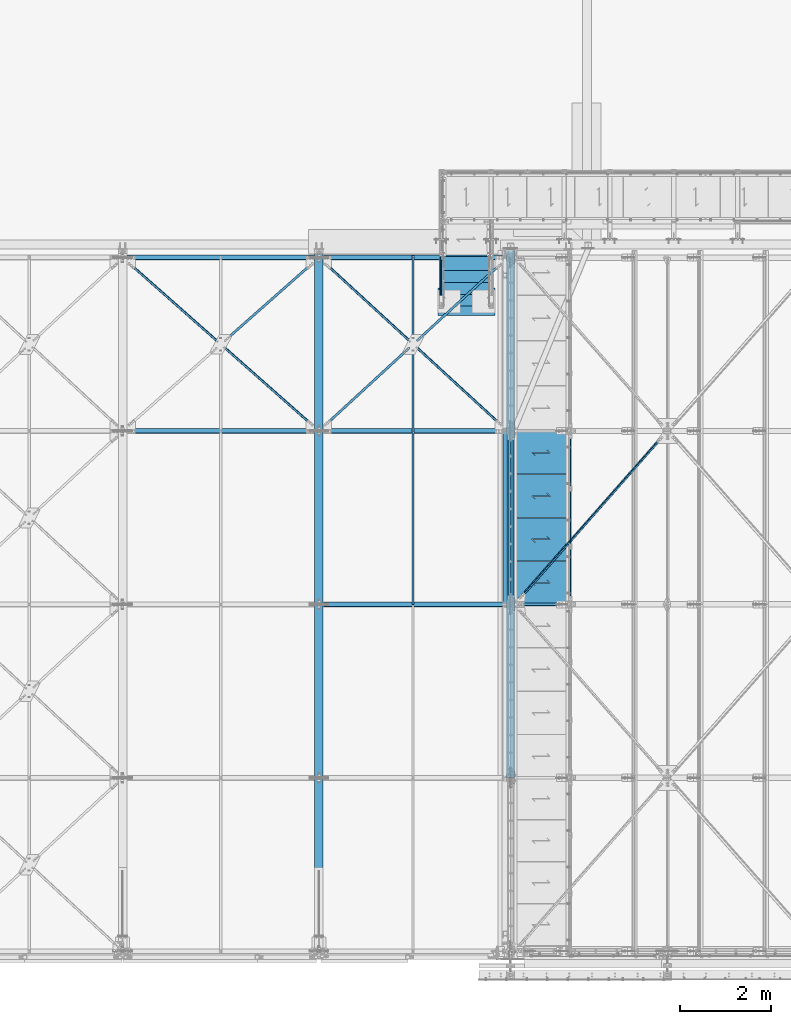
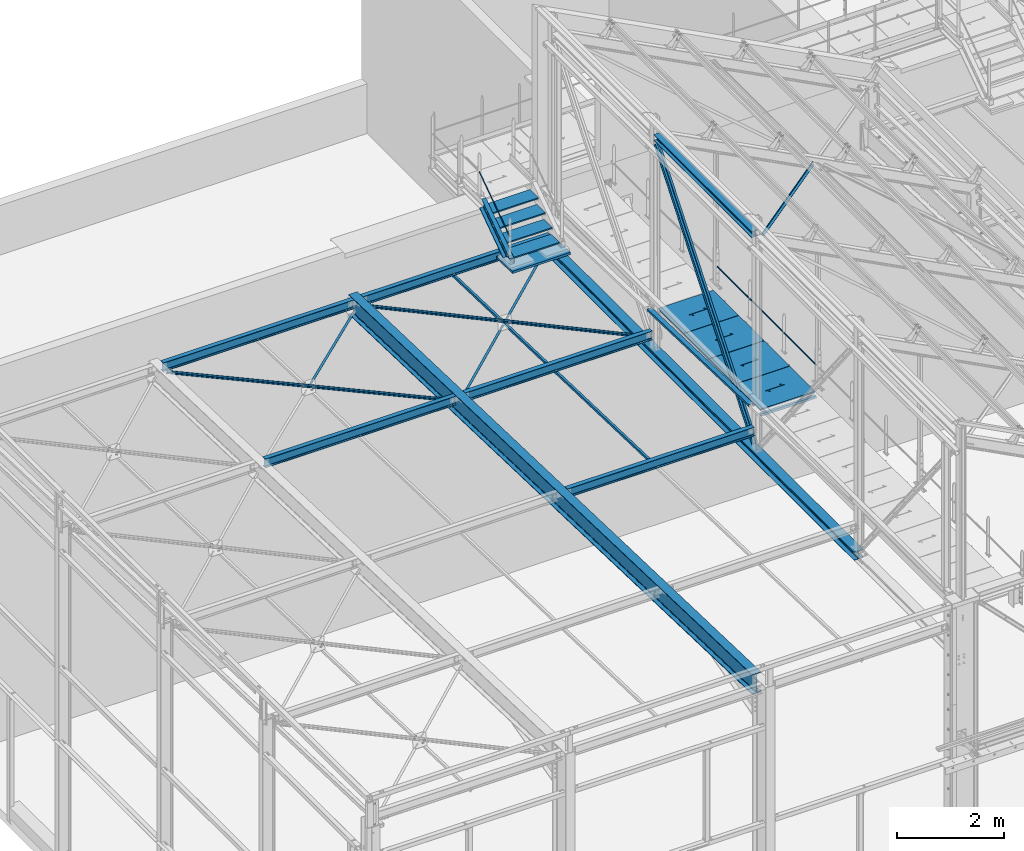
# One storey, part 45 of 362: 27 beams, 4 members, 31 elements without a shape of their own.
"""IFC2X3 building model written with IfcOpenShell, lengths in millimetres."""

from ifc_helpers import new_model, si_unit, frame, origin_with_axes, origin_2d_with_axis, place, context, subcontext, project, spatial, polyline, rectangle, hollow_rectangle, hollow_circle, i_section, l_section, u_section, outline, extrude, boolean, clip, halfspace, material, type_object, element, aggregate, save


model = new_model("IFC2X3")

# Units and contexts
model_context = context("Model", 3, precision=1e-05, world=origin_with_axes())
body_context = subcontext(model_context, "Body", "Model", "MODEL_VIEW")
ifc_project = project(units=[si_unit("LENGTHUNIT", "METRE", prefix="MILLI"), si_unit("AREAUNIT", "SQUARE_METRE"), si_unit("VOLUMEUNIT", "CUBIC_METRE"), si_unit("MASSUNIT", "GRAM", prefix="KILO"), si_unit("TIMEUNIT", "SECOND"), si_unit("PLANEANGLEUNIT", "RADIAN"), si_unit("SOLIDANGLEUNIT", "STERADIAN"), si_unit("THERMODYNAMICTEMPERATUREUNIT", "DEGREE_CELSIUS"), si_unit("LUMINOUSINTENSITYUNIT", "LUMEN")], contexts=[model_context])

# Site, building, storey
site_placement = place(None, origin_with_axes())
site = spatial("IfcSite", under=ifc_project, at=site_placement, Name="Undefined", CompositionType="ELEMENT")
building_placement = place(site_placement, origin_with_axes())
building = spatial("IfcBuilding", under=site, at=building_placement, Name="Undefined", CompositionType="ELEMENT")
storey_placement = place(building_placement, origin_with_axes())
storey = spatial("IfcBuildingStorey", under=building, at=storey_placement, Name="Undefined", CompositionType="ELEMENT", Elevation=0.0)

# Assembly, member
assembly_1_placement = place(storey_placement, origin_with_axes())
assembly_1 = element("IfcElementAssembly", 1, at=assembly_1_placement, inside=storey, Name="MAIN COURANTE", AssemblyPlace="NOTDEFINED", PredefinedType="NOTDEFINED")
ifc_material_1 = material(Name="Undefined/S235-E24")
member_type_1 = type_object("IfcMemberType", Name="TUBE-21.3*2", PredefinedType="NOTDEFINED")
member_1_placement = place(assembly_1_placement, frame((11149.9863365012, 14144.9998536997, 8651.13839395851), z_axis=(-0.999999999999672, -6.66011674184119e-07, -4.61008081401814e-07), x_axis=(0.0, 0.822192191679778, 0.56920997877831)))
member_1 = element("IfcMember", 2, at=member_1_placement, type_object=member_type_1, material=ifc_material_1, Name="LISSE", ObjectType="TUBE-21.3*2", context=body_context, shape_type="Clipping", body=[
    clip(clip(extrude(hollow_circle(Radius=10.64999962, WallThickness=2.0, at=origin_2d_with_axis()), frame((1395.35433691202, -1.13686837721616e-12, 7.38694435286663e-20), z_axis=(-1.0, 0.0, 0.0), x_axis=(0.0, -1.0, 0.0)), (0.0, 0.0, 1.0), 1404.17), halfspace(frame((1387.78549896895, -10.5802584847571, -0.00112410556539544), z_axis=(-0.822192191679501, -0.569209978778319, 6.66011673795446e-07), x_axis=(0.0, 0.0, -1.0)), True)), halfspace(frame((16.4615054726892, -14.9935154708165, -1.33328503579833e-05), z_axis=(0.822192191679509, 0.569209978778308, -6.6601167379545e-07), x_axis=(-0.569209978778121, 0.822192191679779, 4.61008079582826e-07)), True)),
])
aggregate(assembly_1, [member_1])

# Assembly, beam
assembly_2_placement = place(storey_placement, origin_with_axes())
assembly_2 = element("IfcElementAssembly", 3, at=assembly_2_placement, inside=storey, AssemblyPlace="NOTDEFINED", PredefinedType="NOTDEFINED")
beam_type_1 = type_object("IfcBeamType", Name="L50*5", PredefinedType="NOTDEFINED")
beam_1_placement = place(assembly_2_placement, frame((6328.01291896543, 13298.1323585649, 7400.97481652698), z_axis=(0.662381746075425, -0.748796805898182, 0.0235322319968), x_axis=(0.749166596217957, 0.662054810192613, -0.0208047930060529)))
beam_1 = element("IfcBeam", 4, at=beam_1_placement, type_object=beam_type_1, material=ifc_material_1, Name="STABILITE CVT", ObjectType="L50*5", context=body_context, shape_type="Clipping", body=[
    clip(clip(extrude(l_section(Depth=50.0, Width=50.0, Thickness=5.0, FilletRadius=7.0, EdgeRadius=3.5, at=origin_2d_with_axis()), frame((2869.85557757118, -8.99537890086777e-13, -2.81529505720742e-12), z_axis=(-1.0, 0.0, 0.0), x_axis=(0.0, -1.0, 0.0)), (0.0, 0.0, 1.0), 2816.13), halfspace(frame((2704.84923675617, 25.0000247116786, 25.0000392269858), z_axis=(0.999999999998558, -1.69800000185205e-06, 0.0), x_axis=(-6.7626569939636e-10, 1.60677807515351e-06, -0.999999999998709)), False)), halfspace(frame((105.000008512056, 31.0011373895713, -25.0000000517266), z_axis=(-0.999999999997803, 2.09199999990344e-06, -1.31999999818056e-07), x_axis=(1.69800000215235e-06, 0.999999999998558, 0.0)), False)),
])
aggregate(assembly_2, [beam_1])

assembly_3_placement = place(storey_placement, origin_with_axes())
assembly_3 = element("IfcElementAssembly", 5, at=assembly_3_placement, inside=storey, AssemblyPlace="NOTDEFINED", PredefinedType="NOTDEFINED")
beam_2_placement = place(assembly_3_placement, frame((10544.7191661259, 13298.0929210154, 7400.97605698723), z_axis=(0.676965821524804, -0.735651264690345, 0.0231191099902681), x_axis=(0.736014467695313, 0.676631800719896, -0.0212628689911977)))
beam_2 = element("IfcBeam", 6, at=beam_2_placement, type_object=beam_type_1, material=ifc_material_1, Name="STABILITE CVT", ObjectType="L50*5", context=body_context, shape_type="Clipping", body=[
    clip(clip(extrude(l_section(Depth=50.0, Width=50.0, Thickness=5.0, FilletRadius=7.0, EdgeRadius=3.5, at=origin_2d_with_axis()), frame((2808.02895425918, -1.8092470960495e-12, 3.23835093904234e-13), z_axis=(-1.0, 0.0, 0.0), x_axis=(0.0, -1.0, 0.0)), (0.0, 0.0, 1.0), 2754.53), halfspace(frame((2643.02247683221, 25.0000262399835, 25.0000407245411), z_axis=(0.999999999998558, -1.69800000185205e-06, 0.0), x_axis=(-6.7626569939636e-10, 1.60677807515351e-06, -0.999999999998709)), False)), halfspace(frame((105.000008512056, 31.0011373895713, -25.0000000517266), z_axis=(-0.999999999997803, 2.09199999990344e-06, -1.31999999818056e-07), x_axis=(1.69800000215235e-06, 0.999999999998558, 0.0)), False)),
])
aggregate(assembly_3, [beam_2])

assembly_4_placement = place(storey_placement, origin_with_axes())
assembly_4 = element("IfcElementAssembly", 7, at=assembly_4_placement, inside=storey, AssemblyPlace="NOTDEFINED", PredefinedType="NOTDEFINED")
beam_3_placement = place(assembly_4_placement, frame((10543.7500126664, 7601.07123854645, 7586.01904275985), z_axis=(1.0, 0.0, 0.0), x_axis=(3.14103090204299e-11, 0.999506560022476, -0.0314107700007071)))
beam_3 = element("IfcBeam", 8, at=beam_3_placement, type_object=beam_type_1, material=ifc_material_1, Name="LIERNE", ObjectType="L50*5", context=body_context, shape_type="SweptSolid", body=[
    extrude(l_section(Depth=50.0, Width=50.0, Thickness=5.0, FilletRadius=7.0, EdgeRadius=3.5, at=origin_2d_with_axis()), frame((7648.75199419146, 0.0, 0.0), z_axis=(-1.0, 0.0, 0.0), x_axis=(0.0, -1.0, 0.0)), (0.0, 0.0, 1.0), 7648.75),
])
aggregate(assembly_4, [beam_3])

assembly_5_placement = place(storey_placement, origin_with_axes())
assembly_5 = element("IfcElementAssembly", 9, at=assembly_5_placement, inside=storey, AssemblyPlace="NOTDEFINED", PredefinedType="NOTDEFINED")
beam_4_placement = place(assembly_5_placement, frame((8477.96912878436, 11398.0911409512, 7460.68281202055), z_axis=(0.676965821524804, -0.735651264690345, 0.0231191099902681), x_axis=(0.736014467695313, 0.676631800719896, -0.0212628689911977)))
beam_4 = element("IfcBeam", 10, at=beam_4_placement, type_object=beam_type_1, material=ifc_material_1, Name="STABILITE CVT", ObjectType="L50*5", context=body_context, shape_type="Clipping", body=[
    clip(clip(extrude(l_section(Depth=50.0, Width=50.0, Thickness=5.0, FilletRadius=7.0, EdgeRadius=3.5, at=origin_2d_with_axis()), frame((2754.53355243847, 0.0, 2.44754938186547e-12), z_axis=(-1.0, 0.0, 0.0), x_axis=(0.0, -1.0, 0.0)), (0.0, 0.0, 1.0), 2754.53), halfspace(frame((164.999927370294, -25.0001048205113, 24.9999605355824), z_axis=(-0.999999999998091, 1.45272125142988e-06, -1.3065366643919e-06), x_axis=(1.30653895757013e-06, 1.57853991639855e-06, -0.999999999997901)), False)), halfspace(frame((2703.02910001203, 31.00143768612, -24.9999999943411), z_axis=(-0.999999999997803, 2.09199999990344e-06, -1.31999999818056e-07), x_axis=(1.69800000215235e-06, 0.999999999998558, 0.0)), True)),
])
aggregate(assembly_5, [beam_4])

assembly_6_placement = place(storey_placement, origin_with_axes())
assembly_6 = element("IfcElementAssembly", 11, at=assembly_6_placement, inside=storey, AssemblyPlace="NOTDEFINED", PredefinedType="NOTDEFINED")
beam_5_placement = place(assembly_6_placement, frame((12615.5308974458, 11399.8502253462, 7516.65704241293), z_axis=(-0.676965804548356, -0.735651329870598, 0.0231175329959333), x_axis=(-0.7360144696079, 0.676631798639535, -0.0212628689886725)))
beam_5 = element("IfcBeam", 12, at=beam_5_placement, type_object=beam_type_1, material=ifc_material_1, Name="STABILITE CVT", ObjectType="L50*5", context=body_context, shape_type="Clipping", body=[
    clip(clip(extrude(l_section(Depth=50.0, Width=50.0, Thickness=5.0, FilletRadius=7.0, EdgeRadius=3.5, at=origin_2d_with_axis()), frame((5616.05806921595, -8.90010086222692e-13, 3.43460813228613e-12), z_axis=(-1.0, 0.0, 0.0), x_axis=(0.0, -1.0, 0.0)), (0.0, 0.0, 1.0), 5616.06), halfspace(frame((5451.05158910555, -25.0000653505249, -25.0000000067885), z_axis=(0.999999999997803, 2.09200000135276e-06, 1.31999999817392e-07), x_axis=(0.0, 0.0, 1.0)), False)), halfspace(frame((164.999980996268, 25.0000653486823, -24.9999999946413), z_axis=(-0.99999999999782, -2.08799999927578e-06, 0.0), x_axis=(0.0, 0.0, 1.0)), False)),
])
aggregate(assembly_6, [beam_5])

assembly_7_placement = place(storey_placement, origin_with_axes())
assembly_7 = element("IfcElementAssembly", 13, at=assembly_7_placement, inside=storey, AssemblyPlace="NOTDEFINED", PredefinedType="NOTDEFINED")
beam_6_placement = place(assembly_7_placement, frame((8481.98714485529, 11399.889664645, 7516.65580191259), z_axis=(-0.662381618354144, -0.748796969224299, 0.0235306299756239), x_axis=(-0.749166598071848, 0.662054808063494, -0.0208047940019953)))
beam_6 = element("IfcBeam", 14, at=beam_6_placement, type_object=beam_type_1, material=ifc_material_1, Name="STABILITE CVT", ObjectType="L50*5", context=body_context, shape_type="Clipping", body=[
    clip(clip(extrude(l_section(Depth=50.0, Width=50.0, Thickness=5.0, FilletRadius=7.0, EdgeRadius=3.5, at=origin_2d_with_axis()), frame((5739.71131316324, -9.29408325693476e-13, -2.03617236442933e-12), z_axis=(-1.0, 0.0, 0.0), x_axis=(0.0, -1.0, 0.0)), (0.0, 0.0, 1.0), 5739.71), halfspace(frame((5574.70497141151, -25.0000639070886, -25.0000000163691), z_axis=(0.999999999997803, 2.09200000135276e-06, 1.31999999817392e-07), x_axis=(0.0, 0.0, 1.0)), False)), halfspace(frame((164.999980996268, 25.0000653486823, -24.9999999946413), z_axis=(-0.99999999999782, -2.08799999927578e-06, 0.0), x_axis=(0.0, 0.0, 1.0)), False)),
])
aggregate(assembly_7, [beam_6])

# Assembly, member
assembly_8_placement = place(storey_placement, origin_with_axes())
assembly_8 = element("IfcElementAssembly", 15, at=assembly_8_placement, inside=storey, AssemblyPlace="NOTDEFINED", PredefinedType="NOTDEFINED")
ifc_material_2 = material(Name="Undefined/S275-E28")
member_type_2 = type_object("IfcMemberType", Name="UPN260", PredefinedType="NOTDEFINED")
member_2_placement = place(assembly_8_placement, frame((11165.0064946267, 14166.9970857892, 8074.0379599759), z_axis=(2.38199999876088e-06, 0.569209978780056, -0.822192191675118), x_axis=(-1.7169999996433e-06, 0.822192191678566, 0.56920997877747)))
member_2 = element("IfcMember", 16, at=member_2_placement, type_object=member_type_2, material=ifc_material_2, Name="LIMON", ObjectType="UPN260", context=body_context, shape_type="Clipping", body=[
    clip(clip(clip(extrude(u_section(Depth=260.0, FlangeWidth=90.0, WebThickness=10.0, FlangeThickness=14.0, FilletRadius=14.0, EdgeRadius=7.0, FlangeSlope=0.0798299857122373, at=origin_2d_with_axis()), frame((1401.45085429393, -1.81898940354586e-12, 2.27373675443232e-13), z_axis=(-1.0, 0.0, 0.0), x_axis=(0.0, -1.0, 0.0)), (0.0, 0.0, 1.0), 1652.65), halfspace(frame((-194.248465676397, 44.9999999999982, -130.0), z_axis=(-0.594754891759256, -2.93590079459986e-06, 0.803907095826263), x_axis=(0.803907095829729, -3.97667463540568e-10, 0.594754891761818)), False)), halfspace(frame((1199.63884956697, 544.98906444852, 130.001190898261), z_axis=(-0.954513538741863, -9.28664579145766e-07, -0.298167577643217), x_axis=(1.71700000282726e-06, -0.999999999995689, -2.38199999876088e-06)), True)), halfspace(frame((-0.000105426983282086, 106.407623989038, -129.999853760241), z_axis=(0.822192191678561, 5.58458236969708e-08, 0.569209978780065), x_axis=(1.71700000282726e-06, -0.999999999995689, -2.38199999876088e-06)), True)),
])
aggregate(assembly_8, [member_2])

# Assembly, beam
assembly_9_placement = place(storey_placement, origin_with_axes())
assembly_9 = element("IfcElementAssembly", 17, at=assembly_9_placement, inside=storey, Name="Steel Assembly", AssemblyPlace="NOTDEFINED", PredefinedType="NOTDEFINED")
ifc_material_3 = material(Name="MISCELLANEOUS/POLYURETHANE")
beam_type_2 = type_object("IfcBeamType", Name="PL50*1250", PredefinedType="NOTDEFINED")
beam_7_placement = place(assembly_9_placement, frame((11709.9947340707, 14532.1706378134, 7968.49328384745), z_axis=(-1.0, 0.0, 0.0), x_axis=(0.0, -0.999506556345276, 0.031410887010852)))
beam_7 = element("IfcBeam", 18, at=beam_7_placement, type_object=beam_type_2, material=ifc_material_3, Name="STYRODUR", ObjectType="PL50*1250", context=body_context, shape_type="SweptSolid", body=[
    extrude(rectangle(XDim=50.0, YDim=1250.0, at=origin_2d_with_axis()), frame((600.000000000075, -4.16333634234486e-15, 0.0), z_axis=(-1.0, 0.0, 0.0), x_axis=(0.0, -1.0, 0.0)), (0.0, 0.0, 1.0), 600.0),
])
aggregate(assembly_9, [beam_7])

assembly_10_placement = place(storey_placement, origin_with_axes())
assembly_10 = element("IfcElementAssembly", 19, at=assembly_10_placement, inside=storey, Name="MARCHE", AssemblyPlace="NOTDEFINED", PredefinedType="NOTDEFINED")
beam_type_3 = type_object("IfcBeamType", Name="PL30*994", PredefinedType="NOTDEFINED")
beam_8_placement = place(assembly_10_placement, frame((11709.9938089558, 14444.9997910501, 8145.0000000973), z_axis=(-1.0, 0.0, 0.0), x_axis=(0.0, -1.0, 0.0)))
beam_8 = element("IfcBeam", 20, at=beam_8_placement, type_object=beam_type_3, material=ifc_material_1, Name="MARCHE", ObjectType="PL30*994", context=body_context, shape_type="SweptSolid", body=[
    extrude(rectangle(XDim=30.0, YDim=994.0, at=origin_2d_with_axis()), frame((310.0, 0.0, 0.0), z_axis=(-1.0, 0.0, 0.0), x_axis=(0.0, -1.0, 0.0)), (0.0, 0.0, 1.0), 310.0),
])
aggregate(assembly_10, [beam_8])

assembly_11_placement = place(storey_placement, origin_with_axes())
assembly_11 = element("IfcElementAssembly", 21, at=assembly_11_placement, inside=storey, Name="MARCHE", AssemblyPlace="NOTDEFINED", PredefinedType="NOTDEFINED")
beam_9_placement = place(assembly_11_placement, frame((11709.9938089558, 14704.9997910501, 8325.00000007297), z_axis=(-1.0, 0.0, 0.0), x_axis=(0.0, -1.0, 0.0)))
beam_9 = element("IfcBeam", 22, at=beam_9_placement, type_object=beam_type_3, material=ifc_material_1, Name="MARCHE", ObjectType="PL30*994", context=body_context, shape_type="SweptSolid", body=[
    extrude(rectangle(XDim=30.0, YDim=994.0, at=origin_2d_with_axis()), frame((310.0, 0.0, 0.0), z_axis=(-1.0, 0.0, 0.0), x_axis=(0.0, -1.0, 0.0)), (0.0, 0.0, 1.0), 310.0),
])
aggregate(assembly_11, [beam_9])

assembly_12_placement = place(storey_placement, origin_with_axes())
assembly_12 = element("IfcElementAssembly", 23, at=assembly_12_placement, inside=storey, Name="MARCHE", AssemblyPlace="NOTDEFINED", PredefinedType="NOTDEFINED")
beam_10_placement = place(assembly_12_placement, frame((11709.9938089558, 14964.9997910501, 8505.00000004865), z_axis=(-1.0, 0.0, 0.0), x_axis=(0.0, -1.0, 0.0)))
beam_10 = element("IfcBeam", 24, at=beam_10_placement, type_object=beam_type_3, material=ifc_material_1, Name="MARCHE", ObjectType="PL30*994", context=body_context, shape_type="SweptSolid", body=[
    extrude(rectangle(XDim=30.0, YDim=994.0, at=origin_2d_with_axis()), frame((310.0, 0.0, 0.0), z_axis=(-1.0, 0.0, 0.0), x_axis=(0.0, -1.0, 0.0)), (0.0, 0.0, 1.0), 310.0),
])
aggregate(assembly_12, [beam_10])

assembly_13_placement = place(storey_placement, origin_with_axes())
assembly_13 = element("IfcElementAssembly", 25, at=assembly_13_placement, inside=storey, Name="MARCHE", AssemblyPlace="NOTDEFINED", PredefinedType="NOTDEFINED")
beam_11_placement = place(assembly_13_placement, frame((11709.9938089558, 15224.9997910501, 8685.0), z_axis=(-1.0, 0.0, 0.0), x_axis=(0.0, -1.0, 0.0)))
beam_11 = element("IfcBeam", 26, at=beam_11_placement, type_object=beam_type_3, material=ifc_material_1, Name="MARCHE", ObjectType="PL30*994", context=body_context, shape_type="SweptSolid", body=[
    extrude(rectangle(XDim=30.0, YDim=994.0, at=origin_2d_with_axis()), frame((310.0, 0.0, 0.0), z_axis=(-1.0, 0.0, 0.0), x_axis=(0.0, -1.0, 0.0)), (0.0, 0.0, 1.0), 310.0),
])
aggregate(assembly_13, [beam_11])

assembly_14_placement = place(storey_placement, origin_with_axes())
assembly_14 = element("IfcElementAssembly", 27, at=assembly_14_placement, inside=storey, AssemblyPlace="NOTDEFINED", PredefinedType="NOTDEFINED")
beam_type_4 = type_object("IfcBeamType", Name="L60*6", PredefinedType="NOTDEFINED")
beam_12_placement = place(assembly_14_placement, frame((12780.6286043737, 7602.1147646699, 12052.4067909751), z_axis=(0.463528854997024, 6.99999093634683e-09, 0.886081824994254), x_axis=(0.624617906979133, 0.7092857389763, -0.326750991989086)))
beam_12 = element("IfcBeam", 28, at=beam_12_placement, type_object=beam_type_4, material=ifc_material_1, Name="STABILITE CVT", ObjectType="L60*6", context=body_context, shape_type="Clipping", body=[
    clip(clip(extrude(l_section(Depth=60.0, Width=60.0, Thickness=6.0, FilletRadius=8.0, EdgeRadius=4.0, at=origin_2d_with_axis()), frame((5268.62297563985, -3.81630519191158e-13, 3.93044613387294e-12), z_axis=(-1.0, 0.0, 0.0), x_axis=(0.0, -1.0, 0.0)), (0.0, 0.0, 1.0), 5179.74), halfspace(frame((5188.72418157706, 30.0000000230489, -29.9999990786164), z_axis=(-1.0, 0.0, 0.0), x_axis=(0.0, 0.0, 1.0)), True)), halfspace(frame((168.778129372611, -30.0000000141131, -29.9999759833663), z_axis=(1.0, 0.0, 0.0), x_axis=(0.0, 0.0, 1.0)), True)),
])
aggregate(assembly_14, [beam_12])

assembly_15_placement = place(storey_placement, origin_with_axes())
assembly_15 = element("IfcElementAssembly", 29, at=assembly_15_placement, inside=storey, Name="LISSE", AssemblyPlace="NOTDEFINED", PredefinedType="NOTDEFINED")
beam_type_5 = type_object("IfcBeamType", Name="UPF-100*50*4", PredefinedType="NOTDEFINED")
beam_13_placement = place(assembly_15_placement, frame((12563.5000000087, 7602.95853913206, 8291.3293909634), z_axis=(1.0, 0.0, 0.0), x_axis=(0.0, 0.99950644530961, -0.0314144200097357)))
beam_13 = element("IfcBeam", 30, at=beam_13_placement, type_object=beam_type_5, material=ifc_material_1, Name="LISSE CONTREBARDAGE", ObjectType="UPF-100*50*4", context=body_context, shape_type="SweptSolid", body=[
    extrude(u_section(Depth=100.0, FlangeWidth=50.0, WebThickness=4.0, FlangeThickness=4.0, at=origin_2d_with_axis()), frame((3791.87643071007, 0.0, 0.0), z_axis=(-1.0, 0.0, 0.0), x_axis=(0.0, -1.0, 0.0)), (0.0, 0.0, 1.0), 3791.88),
])
aggregate(assembly_15, [beam_13])

assembly_16_placement = place(storey_placement, origin_with_axes())
assembly_16 = element("IfcElementAssembly", 31, at=assembly_16_placement, inside=storey, AssemblyPlace="NOTDEFINED", PredefinedType="NOTDEFINED")
beam_type_6 = type_object("IfcBeamType", Name="TOLE30*940", PredefinedType="NOTDEFINED")
beam_14_placement = place(assembly_16_placement, frame((13936.4998764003, 8544.99999523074, 8115.0), z_axis=(0.0, 0.0, 1.0), x_axis=(-1.0, 0.0, 0.0)))
beam_14 = element("IfcBeam", 32, at=beam_14_placement, type_object=beam_type_6, material=ifc_material_1, Name="CAILLEBOTIS", ObjectType="TOLE30*940", context=body_context, shape_type="CSG", body=[
    boolean("DIFFERENCE", extrude(outline(polyline([(0.0, 0.0), (1179.99169921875, 0.0), (1179.99169921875, 940.0), (-9.39995516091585e-07, 940.0), (0.0, 0.0)])), frame((0.0, 0.0, -15.0), z_axis=(0.0, 0.0, 1.0), x_axis=(1.0, 0.0, 0.0)), (0.0, 0.0, 1.0), 30.0), extrude(outline(polyline([(0.0, 0.0), (9.99999999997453, 6.91215973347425e-11), (10.0000000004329, 75.8578643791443), (282.842712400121, -196.984848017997), (282.842712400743, -96.9848480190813), (272.842712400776, -96.9848480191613), (272.842712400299, -172.842712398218), (0.0, 100.0), (0.0, 0.0)])), frame((724.286946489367, 535.710676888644, -17.5), z_axis=(0.0, 0.0, 1.0), x_axis=(-0.707106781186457, -0.707106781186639, 0.0)), (0.0, 0.0, 1.0), 35.0)),
])
aggregate(assembly_16, [beam_14])

assembly_17_placement = place(storey_placement, origin_with_axes())
assembly_17 = element("IfcElementAssembly", 33, at=assembly_17_placement, inside=storey, AssemblyPlace="NOTDEFINED", PredefinedType="NOTDEFINED")
beam_15_placement = place(assembly_17_placement, frame((13936.4998821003, 9494.99999523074, 8115.0), z_axis=(0.0, 0.0, 1.0), x_axis=(-1.0, 0.0, 0.0)))
beam_15 = element("IfcBeam", 34, at=beam_15_placement, type_object=beam_type_6, material=ifc_material_1, Name="CAILLEBOTIS", ObjectType="TOLE30*940", context=body_context, shape_type="CSG", body=[
    boolean("DIFFERENCE", extrude(outline(polyline([(0.0, 0.0), (1179.99169921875, 0.0), (1179.99169921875, 940.0), (-9.39995516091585e-07, 940.0), (0.0, 0.0)])), frame((0.0, 0.0, -15.0), z_axis=(0.0, 0.0, 1.0), x_axis=(1.0, 0.0, 0.0)), (0.0, 0.0, 1.0), 30.0), extrude(outline(polyline([(0.0, 0.0), (9.99999999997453, 6.91215973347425e-11), (10.0000000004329, 75.8578643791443), (282.842712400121, -196.984848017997), (282.842712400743, -96.9848480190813), (272.842712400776, -96.9848480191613), (272.842712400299, -172.842712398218), (0.0, 100.0), (0.0, 0.0)])), frame((724.286946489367, 535.710676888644, -17.5), z_axis=(0.0, 0.0, 1.0), x_axis=(-0.707106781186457, -0.707106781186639, 0.0)), (0.0, 0.0, 1.0), 35.0)),
])
aggregate(assembly_17, [beam_15])

assembly_18_placement = place(storey_placement, origin_with_axes())
assembly_18 = element("IfcElementAssembly", 35, at=assembly_18_placement, inside=storey, AssemblyPlace="NOTDEFINED", PredefinedType="NOTDEFINED")
beam_16_placement = place(assembly_18_placement, frame((13936.4998878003, 10444.9999952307, 8115.0), z_axis=(0.0, 0.0, 1.0), x_axis=(-1.0, 0.0, 0.0)))
beam_16 = element("IfcBeam", 36, at=beam_16_placement, type_object=beam_type_6, material=ifc_material_1, Name="CAILLEBOTIS", ObjectType="TOLE30*940", context=body_context, shape_type="CSG", body=[
    boolean("DIFFERENCE", extrude(outline(polyline([(0.0, 0.0), (1179.99169921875, 0.0), (1179.99169921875, 940.0), (-9.39995516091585e-07, 940.0), (0.0, 0.0)])), frame((0.0, 0.0, -15.0), z_axis=(0.0, 0.0, 1.0), x_axis=(1.0, 0.0, 0.0)), (0.0, 0.0, 1.0), 30.0), extrude(outline(polyline([(0.0, 0.0), (9.99999999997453, 6.91215973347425e-11), (10.0000000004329, 75.8578643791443), (282.842712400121, -196.984848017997), (282.842712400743, -96.9848480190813), (272.842712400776, -96.9848480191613), (272.842712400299, -172.842712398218), (0.0, 100.0), (0.0, 0.0)])), frame((724.286946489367, 535.710676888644, -17.5), z_axis=(0.0, 0.0, 1.0), x_axis=(-0.707106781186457, -0.707106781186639, 0.0)), (0.0, 0.0, 1.0), 35.0)),
])
aggregate(assembly_18, [beam_16])

assembly_19_placement = place(storey_placement, origin_with_axes())
assembly_19 = element("IfcElementAssembly", 37, at=assembly_19_placement, inside=storey, AssemblyPlace="NOTDEFINED", PredefinedType="NOTDEFINED")
beam_17_placement = place(assembly_19_placement, frame((13936.4998935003, 11395.0, 8115.0), z_axis=(0.0, 0.0, 1.0), x_axis=(-1.0, 0.0, 0.0)))
beam_17 = element("IfcBeam", 38, at=beam_17_placement, type_object=beam_type_6, material=ifc_material_1, Name="CAILLEBOTIS", ObjectType="TOLE30*940", context=body_context, shape_type="CSG", body=[
    boolean("DIFFERENCE", extrude(outline(polyline([(0.0, 0.0), (1179.99169921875, 0.0), (1179.99169921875, 940.0), (-9.39995516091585e-07, 940.0), (0.0, 0.0)])), frame((0.0, 0.0, -15.0), z_axis=(0.0, 0.0, 1.0), x_axis=(1.0, 0.0, 0.0)), (0.0, 0.0, 1.0), 30.0), extrude(outline(polyline([(0.0, 0.0), (9.99999999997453, 6.91215973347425e-11), (10.0000000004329, 75.8578643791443), (282.842712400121, -196.984848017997), (282.842712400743, -96.9848480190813), (272.842712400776, -96.9848480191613), (272.842712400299, -172.842712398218), (0.0, 100.0), (0.0, 0.0)])), frame((724.286946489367, 535.710676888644, -17.5), z_axis=(0.0, 0.0, 1.0), x_axis=(-0.707106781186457, -0.707106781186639, 0.0)), (0.0, 0.0, 1.0), 35.0)),
])
aggregate(assembly_19, [beam_17])

assembly_20_placement = place(storey_placement, origin_with_axes())
assembly_20 = element("IfcElementAssembly", 39, at=assembly_20_placement, inside=storey, Name="MAIN COURANTE", AssemblyPlace="NOTDEFINED", PredefinedType="NOTDEFINED")
beam_type_7 = type_object("IfcBeamType", Name="TUBE-26.9*2", PredefinedType="NOTDEFINED")
beam_18_placement = place(assembly_20_placement, frame((13993.9998909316, 11345.0000094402, 8673.79999937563), z_axis=(0.0, 0.0, 1.0), x_axis=(0.0, -1.0, 0.0)))
beam_18 = element("IfcBeam", 40, at=beam_18_placement, type_object=beam_type_7, material=ifc_material_1, Name="LISSE", ObjectType="TUBE-26.9*2", context=body_context, shape_type="SweptSolid", body=[
    extrude(hollow_circle(Radius=13.44999981, WallThickness=2.0, at=origin_2d_with_axis()), frame((3690.00000000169, 3.69000323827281e-24, 0.0), z_axis=(-1.0, 0.0, 0.0), x_axis=(0.0, -1.0, 0.0)), (0.0, 0.0, 1.0), 3690.0),
])
aggregate(assembly_20, [beam_18])

assembly_21_placement = place(storey_placement, origin_with_axes())
assembly_21 = element("IfcElementAssembly", 41, at=assembly_21_placement, inside=storey, AssemblyPlace="NOTDEFINED", PredefinedType="NOTDEFINED")
beam_type_8 = type_object("IfcBeamType", Name="HEA140", PredefinedType="NOTDEFINED")
beam_19_placement = place(assembly_21_placement, frame((12683.5, 11325.0, 12103.5), z_axis=(0.0, 0.0, 1.0), x_axis=(0.0, -1.0, 0.0)))
beam_19 = element("IfcBeam", 42, at=beam_19_placement, type_object=beam_type_8, material=ifc_material_2, Name="LONGERON", ObjectType="HEA140", context=body_context, shape_type="SweptSolid", body=[
    extrude(i_section(OverallWidth=140.0, OverallDepth=133.0, WebThickness=5.5, FlangeThickness=8.5, FilletRadius=12.0, at=origin_2d_with_axis()), frame((3650.0, 0.0, 0.0), z_axis=(-1.0, 0.0, 0.0), x_axis=(0.0, -1.0, 0.0)), (0.0, 0.0, 1.0), 3650.0),
])
aggregate(assembly_21, [beam_19])

assembly_22_placement = place(storey_placement, origin_with_axes())
assembly_22 = element("IfcElementAssembly", 43, at=assembly_22_placement, inside=storey, AssemblyPlace="NOTDEFINED", PredefinedType="NOTDEFINED")
beam_type_9 = type_object("IfcBeamType", Name="HEA200", PredefinedType="NOTDEFINED")
beam_20_placement = place(assembly_22_placement, frame((12679.9999999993, 15349.9999996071, 7154.99999868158), z_axis=(0.0, 0.0, 1.0), x_axis=(0.0, -1.0, 0.0)))
beam_20 = element("IfcBeam", 44, at=beam_20_placement, type_object=beam_type_9, material=ifc_material_2, Name="LONGERON", ObjectType="HEA200", context=body_context, shape_type="SweptSolid", body=[
    extrude(i_section(OverallWidth=200.0, OverallDepth=190.0, WebThickness=6.5, FlangeThickness=10.0, FilletRadius=18.0, at=origin_2d_with_axis()), frame((11545.0000000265, 0.0, 0.0), z_axis=(-1.0, 0.0, 0.0), x_axis=(0.0, -1.0, 0.0)), (0.0, 0.0, 1.0), 11545.0),
])
aggregate(assembly_22, [beam_20])

# Assembly, member
assembly_23_placement = place(storey_placement, origin_with_axes())
assembly_23 = element("IfcElementAssembly", 45, at=assembly_23_placement, inside=storey, AssemblyPlace="NOTDEFINED", PredefinedType="NOTDEFINED")
member_type_3 = type_object("IfcMemberType", Name="UPN80", PredefinedType="NOTDEFINED")
member_3_placement = place(assembly_23_placement, frame((12707.4999999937, 7599.99999999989, 7250.0), z_axis=(0.0, -0.783225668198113, 0.621737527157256), x_axis=(0.0, 0.621737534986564, 0.783225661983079)))
member_3 = element("IfcMember", 46, at=member_3_placement, type_object=member_type_3, material=ifc_material_2, Name="DIAGONALE", ObjectType="UPN80", context=body_context, shape_type="Clipping", body=[
    clip(clip(extrude(u_section(Depth=80.0, FlangeWidth=45.0, WebThickness=6.0, FlangeThickness=8.0, FilletRadius=8.0, EdgeRadius=4.0, FlangeSlope=0.0798299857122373, at=origin_2d_with_axis()), frame((6070.59674052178, 0.0, 0.0), z_axis=(-1.0, 0.0, 0.0), x_axis=(0.0, -1.0, 0.0)), (0.0, 0.0, 1.0), 6029.29), halfspace(frame((5991.90387685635, 27.5000000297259, -40.0000004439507), z_axis=(-1.0, 0.0, 0.0), x_axis=(0.0, 1.0, 0.0)), True)), halfspace(frame((119.999999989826, 27.5000000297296, 39.9999985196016), z_axis=(1.0, 0.0, 0.0), x_axis=(0.0, 1.0, 0.0)), True)),
])
aggregate(assembly_23, [member_3])

assembly_24_placement = place(storey_placement, origin_with_axes())
assembly_24 = element("IfcElementAssembly", 47, at=assembly_24_placement, inside=storey, AssemblyPlace="NOTDEFINED", PredefinedType="NOTDEFINED")
member_4_placement = place(assembly_24_placement, frame((12652.5000000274, 11399.9999999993, 12037.0), z_axis=(0.0, -0.783225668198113, 0.621737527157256), x_axis=(0.0, -0.621737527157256, -0.783225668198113)))
member_4 = element("IfcMember", 48, at=member_4_placement, type_object=member_type_3, material=ifc_material_2, Name="DIAGONALE", ObjectType="UPN80", context=body_context, shape_type="Clipping", body=[
    clip(clip(extrude(u_section(Depth=80.0, FlangeWidth=45.0, WebThickness=6.0, FlangeThickness=8.0, FilletRadius=8.0, EdgeRadius=4.0, FlangeSlope=0.0798299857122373, at=origin_2d_with_axis()), frame((6070.59674052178, 0.0, 0.0), z_axis=(-1.0, 0.0, 0.0), x_axis=(0.0, -1.0, 0.0)), (0.0, 0.0, 1.0), 6029.29), halfspace(frame((5991.90387686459, 27.4999999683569, 39.9999999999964), z_axis=(-1.0, 0.0, 0.0), x_axis=(0.0, -1.0, 0.0)), True)), halfspace(frame((119.999999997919, 27.49999999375, -39.9999989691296), z_axis=(1.0, 0.0, 0.0), x_axis=(0.0, -1.0, 0.0)), True)),
])
aggregate(assembly_24, [member_4])

# Assembly, beam
assembly_25_placement = place(storey_placement, origin_with_axes())
assembly_25 = element("IfcElementAssembly", 49, at=assembly_25_placement, inside=storey, Name="TRAVERSE", AssemblyPlace="NOTDEFINED", PredefinedType="NOTDEFINED")
beam_type_10 = type_object("IfcBeamType", Name="IPE450", PredefinedType="NOTDEFINED")
beam_21_placement = place(assembly_25_placement, frame((8480.00000000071, -7.06742078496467, 7825.11102391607), z_axis=(-1.05403257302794e-09, -0.0314112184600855, -0.999506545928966), x_axis=(3.14103090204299e-11, 0.999506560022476, -0.0314107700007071)))
beam_21 = element("IfcBeam", 50, at=beam_21_placement, type_object=beam_type_10, material=ifc_material_2, Name="TRAVERSE", ObjectType="IPE450", context=body_context, shape_type="Clipping", body=[
    clip(clip(extrude(i_section(OverallWidth=190.0, OverallDepth=450.0, WebThickness=9.399999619, FlangeThickness=14.60000038, FilletRadius=21.0, at=origin_2d_with_axis()), frame((15397.5977849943, 0.0, 0.0), z_axis=(-1.0, 0.0, 0.0), x_axis=(0.0, -1.0, 0.0)), (0.0, 0.0, 1.0), 15397.6), halfspace(frame((15367.5829744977, -95.0, -224.999999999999), z_axis=(0.999506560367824, 0.0, -0.0314107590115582), x_axis=(0.0314107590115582, 0.0, 0.999506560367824)), False)), halfspace(frame((335.150577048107, 95.0, -225.471161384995), z_axis=(-0.999506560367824, 0.0, 0.0314107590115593), x_axis=(0.0314107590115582, 0.0, 0.999506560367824)), False)),
])
aggregate(assembly_25, [beam_21])

assembly_26_placement = place(storey_placement, origin_with_axes())
assembly_26 = element("IfcElementAssembly", 51, at=assembly_26_placement, inside=storey, AssemblyPlace="NOTDEFINED", PredefinedType="NOTDEFINED")
beam_type_11 = type_object("IfcBeamType", Name="TUBE-C-60*60*3", PredefinedType="NOTDEFINED")
beam_22_placement = place(assembly_26_placement, frame((12758.0083416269, 7600.0, 8015.0), z_axis=(0.0, -1.0, 0.0), x_axis=(1.0, 0.0, 0.0)))
beam_22 = element("IfcBeam", 52, at=beam_22_placement, type_object=beam_type_11, material=ifc_material_1, Name="SOLIVE", ObjectType="TUBE-C-60*60*3", context=body_context, shape_type="SweptSolid", body=[
    extrude(hollow_rectangle(XDim=60.0, YDim=60.0, WallThickness=3.0, InnerFilletRadius=3.0, OuterFilletRadius=6.0, at=origin_2d_with_axis()), frame((1181.99154388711, 0.0, 0.0), z_axis=(-1.0, 0.0, 0.0), x_axis=(0.0, -1.0, 0.0)), (0.0, 0.0, 1.0), 1181.99),
])
aggregate(assembly_26, [beam_22])

assembly_27_placement = place(storey_placement, origin_with_axes())
assembly_27 = element("IfcElementAssembly", 53, at=assembly_27_placement, inside=storey, AssemblyPlace="NOTDEFINED", PredefinedType="NOTDEFINED")
beam_type_12 = type_object("IfcBeamType", Name="IPE200", PredefinedType="NOTDEFINED")
beam_23_placement = place(assembly_27_placement, frame((8579.99999918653, 15199.9999999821, 7472.27130559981), z_axis=(7.58071938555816e-11, 0.0314107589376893, 0.999506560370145), x_axis=(1.0, 0.0, 0.0)))
beam_23 = element("IfcBeam", 54, at=beam_23_placement, type_object=beam_type_12, material=ifc_material_2, Name="PANNE", ObjectType="IPE200", context=body_context, shape_type="SweptSolid", body=[
    extrude(i_section(OverallWidth=100.0, OverallDepth=200.0, WebThickness=5.599999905, FlangeThickness=8.5, FilletRadius=12.0, at=origin_2d_with_axis()), frame((4023.49999999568, 0.0, 0.0), z_axis=(-1.0, 0.0, 0.0), x_axis=(0.0, -1.0, 0.0)), (0.0, 0.0, 1.0), 4023.5),
])
aggregate(assembly_27, [beam_23])

assembly_28_placement = place(storey_placement, origin_with_axes())
assembly_28 = element("IfcElementAssembly", 55, at=assembly_28_placement, inside=storey, AssemblyPlace="NOTDEFINED", PredefinedType="NOTDEFINED")
beam_24_placement = place(assembly_28_placement, frame((4279.9999991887, 15199.9999999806, 7472.27130559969), z_axis=(7.58071938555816e-11, 0.0314107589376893, 0.999506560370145), x_axis=(1.0, 0.0, 0.0)))
beam_24 = element("IfcBeam", 56, at=beam_24_placement, type_object=beam_type_12, material=ifc_material_2, Name="PANNE", ObjectType="IPE200", context=body_context, shape_type="SweptSolid", body=[
    extrude(i_section(OverallWidth=100.0, OverallDepth=200.0, WebThickness=5.599999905, FlangeThickness=8.5, FilletRadius=12.0, at=origin_2d_with_axis()), frame((4100.0, 0.0, 0.0), z_axis=(-1.0, 0.0, 0.0), x_axis=(0.0, -1.0, 0.0)), (0.0, 0.0, 1.0), 4100.0),
])
aggregate(assembly_28, [beam_24])

assembly_29_placement = place(storey_placement, origin_with_axes())
assembly_29 = element("IfcElementAssembly", 57, at=assembly_29_placement, inside=storey, AssemblyPlace="NOTDEFINED", PredefinedType="NOTDEFINED")
beam_25_placement = place(assembly_29_placement, frame((8579.99999999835, 11399.9999999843, 7591.69113532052), z_axis=(7.58071938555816e-11, 0.0314107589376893, 0.999506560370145), x_axis=(1.0, 0.0, 0.0)))
beam_25 = element("IfcBeam", 58, at=beam_25_placement, type_object=beam_type_12, material=ifc_material_2, Name="PANNE", ObjectType="IPE200", context=body_context, shape_type="SweptSolid", body=[
    extrude(i_section(OverallWidth=100.0, OverallDepth=200.0, WebThickness=5.599999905, FlangeThickness=8.5, FilletRadius=12.0, at=origin_2d_with_axis()), frame((4023.49999999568, 0.0, 0.0), z_axis=(-1.0, 0.0, 0.0), x_axis=(0.0, -1.0, 0.0)), (0.0, 0.0, 1.0), 4023.5),
])
aggregate(assembly_29, [beam_25])

assembly_30_placement = place(storey_placement, origin_with_axes())
assembly_30 = element("IfcElementAssembly", 59, at=assembly_30_placement, inside=storey, AssemblyPlace="NOTDEFINED", PredefinedType="NOTDEFINED")
beam_26_placement = place(assembly_30_placement, frame((4280.0, 11400.0005139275, 7591.68939134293), z_axis=(7.58071938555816e-11, 0.0314107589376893, 0.999506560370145), x_axis=(1.0, 0.0, 0.0)))
beam_26 = element("IfcBeam", 60, at=beam_26_placement, type_object=beam_type_12, material=ifc_material_2, Name="PANNE", ObjectType="IPE200", context=body_context, shape_type="SweptSolid", body=[
    extrude(i_section(OverallWidth=100.0, OverallDepth=200.0, WebThickness=5.599999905, FlangeThickness=8.5, FilletRadius=12.0, at=origin_2d_with_axis()), frame((4100.0, 0.0, 0.0), z_axis=(-1.0, 0.0, 0.0), x_axis=(0.0, -1.0, 0.0)), (0.0, 0.0, 1.0), 4100.0),
])
aggregate(assembly_30, [beam_26])

assembly_31_placement = place(storey_placement, origin_with_axes())
assembly_31 = element("IfcElementAssembly", 61, at=assembly_31_placement, inside=storey, AssemblyPlace="NOTDEFINED", PredefinedType="NOTDEFINED")
beam_27_placement = place(assembly_31_placement, frame((8579.99999999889, 7599.99999998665, 7711.11096504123), z_axis=(7.58071938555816e-11, 0.0314107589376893, 0.999506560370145), x_axis=(1.0, 0.0, 0.0)))
beam_27 = element("IfcBeam", 62, at=beam_27_placement, type_object=beam_type_12, material=ifc_material_2, Name="PANNE", ObjectType="IPE200", context=body_context, shape_type="SweptSolid", body=[
    extrude(i_section(OverallWidth=100.0, OverallDepth=200.0, WebThickness=5.599999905, FlangeThickness=8.5, FilletRadius=12.0, at=origin_2d_with_axis()), frame((4023.49999999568, 0.0, 0.0), z_axis=(-1.0, 0.0, 0.0), x_axis=(0.0, -1.0, 0.0)), (0.0, 0.0, 1.0), 4023.5),
])
aggregate(assembly_31, [beam_27])

save(model, "model.ifc")
